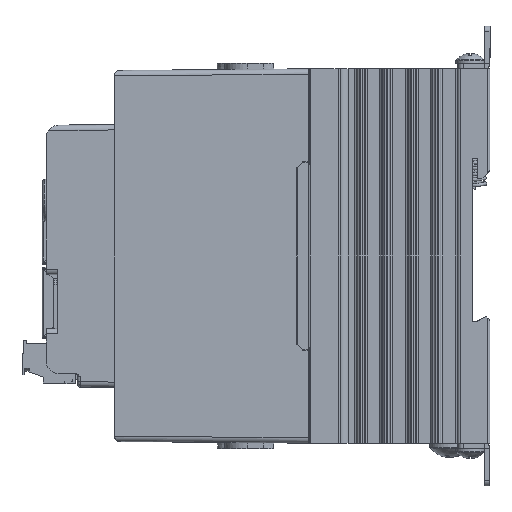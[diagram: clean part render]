
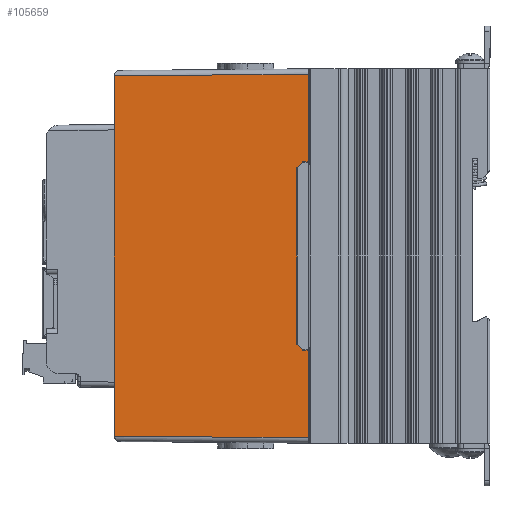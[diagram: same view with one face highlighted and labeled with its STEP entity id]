
A CAD part, left-side view. The second image highlights one B-rep face of the part: STEP entity #105659.
In plain terms, the highlighted planar face has unit normal (-1, 0.009, 0) as drawn and (1, 0, 0.009) by its records, which use the part's own axes.
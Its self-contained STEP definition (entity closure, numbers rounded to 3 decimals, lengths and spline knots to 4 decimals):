
#11804=FACE_OUTER_BOUND('',#17649,.T.);
#17649=EDGE_LOOP('',(#93405,#93406,#93407,#93408,#93409,#93410,#93411,#93412,
#93413,#93414));
#28537=LINE('',#184430,#40162);
#28667=LINE('',#185215,#40292);
#28673=LINE('',#185227,#40298);
#28677=LINE('',#185233,#40302);
#28679=LINE('',#185237,#40304);
#28681=LINE('',#185241,#40306);
#28682=LINE('',#185244,#40307);
#29027=LINE('',#186002,#40652);
#29029=LINE('',#186008,#40654);
#29030=LINE('',#186009,#40655);
#40162=VECTOR('',#138817,0.3937);
#40292=VECTOR('',#139193,0.3937);
#40298=VECTOR('',#139203,0.3937);
#40302=VECTOR('',#139211,0.3937);
#40304=VECTOR('',#139215,0.3937);
#40306=VECTOR('',#139219,0.3937);
#40307=VECTOR('',#139222,0.3937);
#40652=VECTOR('',#139947,0.3937);
#40654=VECTOR('',#139955,0.3937);
#40655=VECTOR('',#139956,0.3937);
#50064=VERTEX_POINT('',#184427);
#50065=VERTEX_POINT('',#184429);
#50168=VERTEX_POINT('',#185212);
#50169=VERTEX_POINT('',#185214);
#50172=VERTEX_POINT('',#185224);
#50173=VERTEX_POINT('',#185226);
#50174=VERTEX_POINT('',#185235);
#50175=VERTEX_POINT('',#185239);
#50176=VERTEX_POINT('',#185243);
#50376=VERTEX_POINT('',#186007);
#64354=EDGE_CURVE('',#50065,#50064,#28537,.T.);
#64542=EDGE_CURVE('',#50169,#50168,#28667,.T.);
#64548=EDGE_CURVE('',#50173,#50172,#28673,.T.);
#64552=EDGE_CURVE('',#50168,#50173,#28677,.T.);
#64554=EDGE_CURVE('',#50172,#50174,#28679,.T.);
#64556=EDGE_CURVE('',#50174,#50175,#28681,.T.);
#64557=EDGE_CURVE('',#50176,#50169,#28682,.T.);
#64923=EDGE_CURVE('',#50176,#50064,#29027,.T.);
#64926=EDGE_CURVE('',#50175,#50376,#29029,.T.);
#64927=EDGE_CURVE('',#50065,#50376,#29030,.T.);
#93405=ORIENTED_EDGE('',*,*,#64556,.T.);
#93406=ORIENTED_EDGE('',*,*,#64926,.T.);
#93407=ORIENTED_EDGE('',*,*,#64927,.F.);
#93408=ORIENTED_EDGE('',*,*,#64354,.T.);
#93409=ORIENTED_EDGE('',*,*,#64923,.F.);
#93410=ORIENTED_EDGE('',*,*,#64557,.T.);
#93411=ORIENTED_EDGE('',*,*,#64542,.T.);
#93412=ORIENTED_EDGE('',*,*,#64552,.T.);
#93413=ORIENTED_EDGE('',*,*,#64548,.T.);
#93414=ORIENTED_EDGE('',*,*,#64554,.T.);
#100425=PLANE('',#113884);
#105659=ADVANCED_FACE('',(#11804),#100425,.T.);
#113884=AXIS2_PLACEMENT_3D('',#186006,#139953,#139954);
#138817=DIRECTION('',(0.,-1.,0.));
#139193=DIRECTION('',(-0.009,0.009,1.));
#139203=DIRECTION('',(0.,1.,0.));
#139211=DIRECTION('',(-0.006,0.71,0.704));
#139215=DIRECTION('',(0.006,0.71,-0.704));
#139219=DIRECTION('',(0.009,0.009,-1.));
#139222=DIRECTION('',(0.,1.,0.));
#139947=DIRECTION('',(-0.009,0.009,1.));
#139953=DIRECTION('center_axis',(1.,0.,
0.009));
#139954=DIRECTION('ref_axis',(0.,1.,0.));
#139955=DIRECTION('',(0.,1.,0.));
#139956=DIRECTION('',(0.009,0.009,-1.));
#184427=CARTESIAN_POINT('',(1.3842,0.0658,1.811));
#184429=CARTESIAN_POINT('',(1.3842,3.4342,1.811));
#184430=CARTESIAN_POINT('',(1.3842,0.,1.811));
#185212=CARTESIAN_POINT('',(1.3995,0.8705,0.0521));
#185214=CARTESIAN_POINT('',(1.4,0.87,0.));
#185215=CARTESIAN_POINT('',(1.3996,0.8704,0.0436));
#185224=CARTESIAN_POINT('',(1.3991,2.5762,0.105));
#185226=CARTESIAN_POINT('',(1.3991,0.9238,0.105));
#185227=CARTESIAN_POINT('',(1.3991,3.0381,0.105));
#185233=CARTESIAN_POINT('',(1.3937,1.5503,0.726));
#185235=CARTESIAN_POINT('',(1.3995,2.6295,0.0521));
#185237=CARTESIAN_POINT('',(1.4015,2.859,-0.1754));
#185239=CARTESIAN_POINT('',(1.4,2.63,0.));
#185241=CARTESIAN_POINT('',(1.4,2.63,0.0023));
#185243=CARTESIAN_POINT('',(1.4,0.05,0.));
#185244=CARTESIAN_POINT('',(1.4,0.,0.));
#186002=CARTESIAN_POINT('',(1.3999,0.0501,0.0148));
#186006=CARTESIAN_POINT('Origin',(1.4,3.5,0.));
#186007=CARTESIAN_POINT('',(1.4,3.45,0.));
#186008=CARTESIAN_POINT('',(1.4,0.,0.));
#186009=CARTESIAN_POINT('',(1.4,3.45,0.0057));
